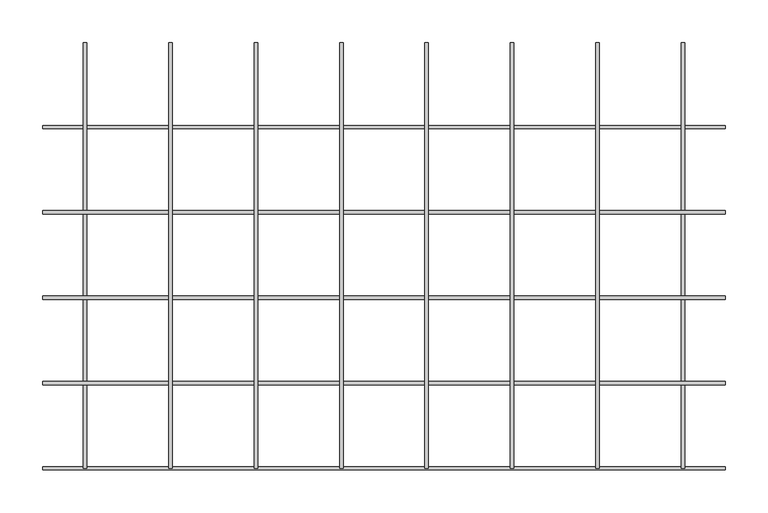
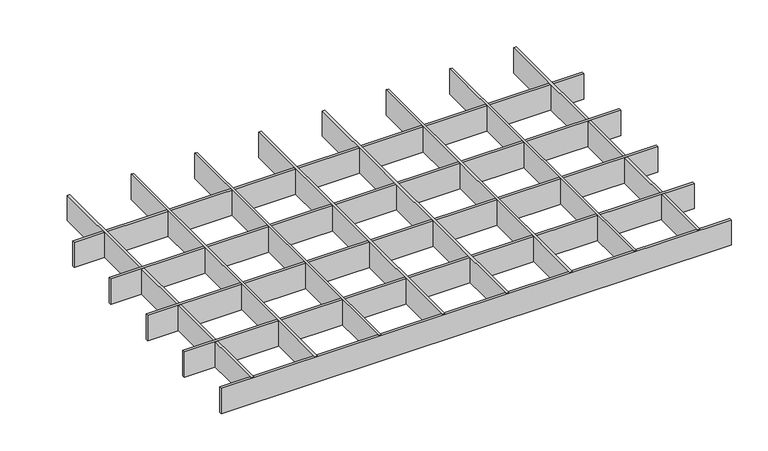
"""IFC4 building model written with IfcOpenShell, lengths in millimetres: proxy geometry, durlum_GEO_panel : durlum_GEO_4_corner_cut."""

from ifc_helpers import new_model, si_unit, origin, origin_with_axes, place, context, project, spatial, polyline, outline, extrude, source, transform, mapped, element, save


def generic_models_4441d552(model_context):
    return source(origin(), model_context, "Body", "SweptSolid", [
        extrude(outline(polyline([(248.0, 249.5), (252.0, 249.5), (252.0, -249.5), (248.0, -249.5), (248.0, 249.5)])), origin_with_axes(), (0.0, 0.0, 1.0), 42.0),
        extrude(outline(polyline([(148.0, 249.5), (152.0, 249.5), (152.0, -249.5), (148.0, -249.5), (148.0, 249.5)])), origin_with_axes(), (0.0, 0.0, 1.0), 42.0),
        extrude(outline(polyline([(48.0, 249.5), (52.0, 249.5), (52.0, -249.5), (48.0, -249.5), (48.0, 249.5)])), origin_with_axes(), (0.0, 0.0, 1.0), 42.0),
        extrude(outline(polyline([(-52.0, 249.5), (-48.0, 249.5), (-48.0, -249.5), (-52.0, -249.5), (-52.0, 249.5)])), origin_with_axes(), (0.0, 0.0, 1.0), 42.0),
        extrude(outline(polyline([(-152.0, 249.5), (-148.0, 249.5), (-148.0, -249.5), (-152.0, -249.5), (-152.0, 249.5)])), origin_with_axes(), (0.0, 0.0, 1.0), 42.0),
        extrude(outline(polyline([(-252.0, 249.5), (-248.0, 249.5), (-248.0, -249.5), (-252.0, -249.5), (-252.0, 249.5)])), origin_with_axes(), (0.0, 0.0, 1.0), 42.0),
        extrude(outline(polyline([(399.75, -147.5), (399.75, -151.5), (-399.75, -151.5), (-399.75, -147.5), (399.75, -147.5)])), origin_with_axes(), (0.0, 0.0, 1.0), 42.0),
        extrude(outline(polyline([(399.75, -47.5), (399.75, -51.5), (-399.75, -51.5), (-399.75, -47.5), (399.75, -47.5)])), origin_with_axes(), (0.0, 0.0, 1.0), 42.0),
        extrude(outline(polyline([(399.75, 52.5), (399.75, 48.5), (-399.75, 48.5), (-399.75, 52.5), (399.75, 52.5)])), origin_with_axes(), (0.0, 0.0, 1.0), 42.0),
        extrude(outline(polyline([(348.0, 249.5), (352.0, 249.5), (352.0, -249.5), (348.0, -249.5), (348.0, 249.5)])), origin_with_axes(), (0.0, 0.0, 1.0), 42.0),
        extrude(outline(polyline([(-352.0, 249.5), (-348.0, 249.5), (-348.0, -249.5), (-352.0, -249.5), (-352.0, 249.5)])), origin_with_axes(), (0.0, 0.0, 1.0), 42.0),
        extrude(outline(polyline([(399.75, -247.5), (399.75, -251.5), (-399.75, -251.5), (-399.75, -247.5), (399.75, -247.5)])), origin_with_axes(), (0.0, 0.0, 1.0), 42.0),
        extrude(outline(polyline([(399.75, 152.5), (399.75, 148.5), (-399.75, 148.5), (-399.75, 152.5), (399.75, 152.5)])), origin_with_axes(), (0.0, 0.0, 1.0), 42.0),
    ])


if __name__ == "__main__":
    model = new_model("IFC4")
    model_context = context("Model", 3, world=origin())
    ifc_project = project(units=[si_unit("LENGTHUNIT", "METRE", prefix="MILLI")], contexts=[model_context])
    site = spatial("IfcSite", under=ifc_project)
    building = spatial("IfcBuilding", under=site)
    placement = place(None, origin())
    generic_models_shape = generic_models_4441d552(model_context)
    element("IfcBuildingElementProxy", 1, Name="durlum_GEO_panel : durlum_GEO_4_corner_cut", ObjectType="durlum_GEO_panel : durlum_GEO_4_corner_cut", at=placement, inside=building, context=model_context, shape_type="MappedRepresentation", body=[
        mapped(generic_models_shape, transform((0.0, 0.0, 0.0), x_axis=(1.0, 0.0, 0.0), y_axis=(0.0, 1.0, 0.0), z_axis=(0.0, 0.0, 1.0))),
    ])
    save(model, "model.ifc")
